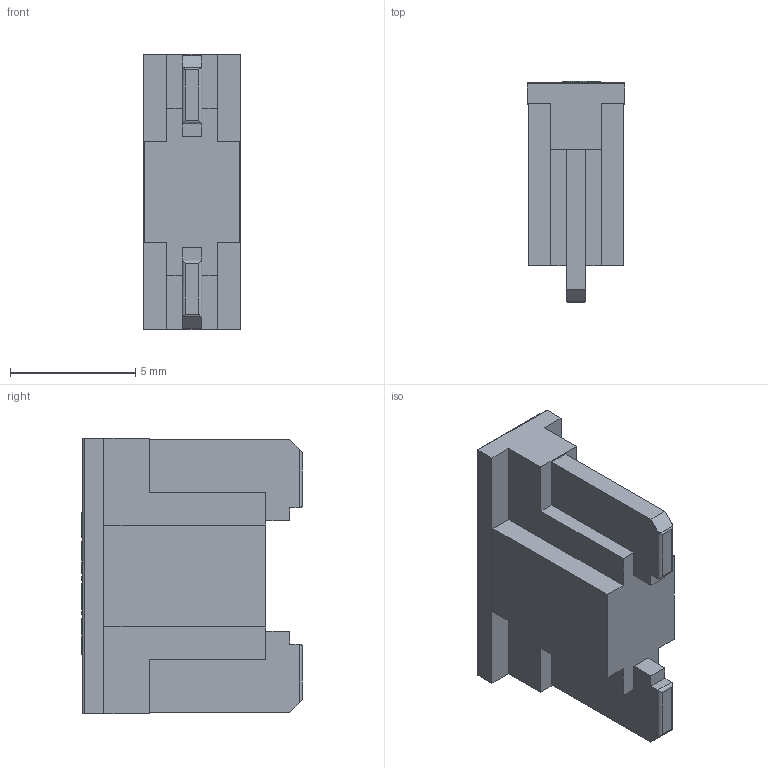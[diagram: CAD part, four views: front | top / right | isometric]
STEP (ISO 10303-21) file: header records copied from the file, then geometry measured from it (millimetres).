
FILE_DESCRIPTION(/* description */ (''),/* implementation_level */ '2;1');
FILE_NAME(/* name */ 'C:\Users\Hani\Desktop\work\ANS-I\ANS-I.stp',/* time_stamp */ '2021-10-15T15:19:42-07:00',/* author */ ('Hani'),/* organization */ (''),/* preprocessor_version */ 'ST-DEVELOPER v17',/* originating_system */ 'Autodesk Inventor 2019',/* authorisation */ '');
FILE_SCHEMA (('AUTOMOTIVE_DESIGN { 1 0 10303 214 3 1 1 }'));
Length unit declared in the file: inch
Products named in the file (1): ANS-I
Bounding box: 3.9 x 8.8 x 11 mm (x, y, z)
Volume: 206.7 mm3; surface area: 322.3 mm2
Topology: 1 solids, 1 shells, 188 faces, 514 edges, 340 vertices
Faces by surface type: plane 109, bspline 67, cylinder 12
Entity records: 6540 total; most frequent: CARTESIAN_POINT 2127, ORIENTED_EDGE 1028, DIRECTION 640, EDGE_CURVE 514, LINE 364, VECTOR 364, VERTEX_POINT 340, EDGE_LOOP 200
